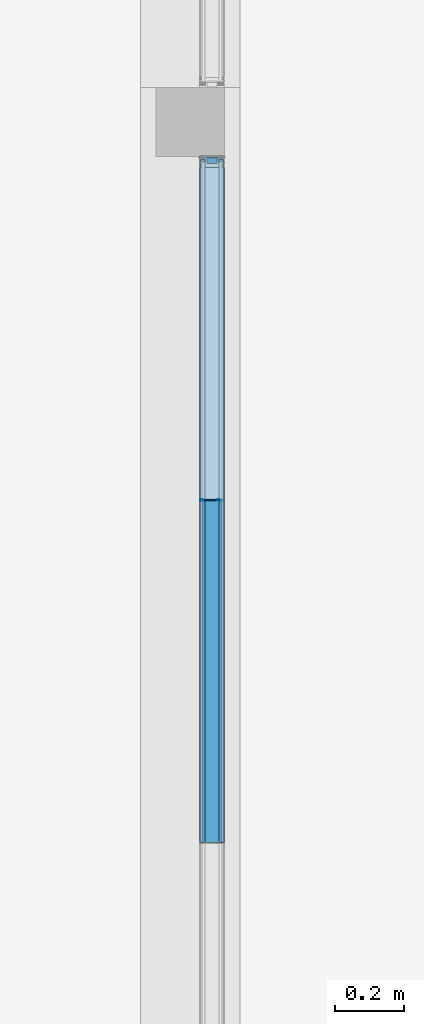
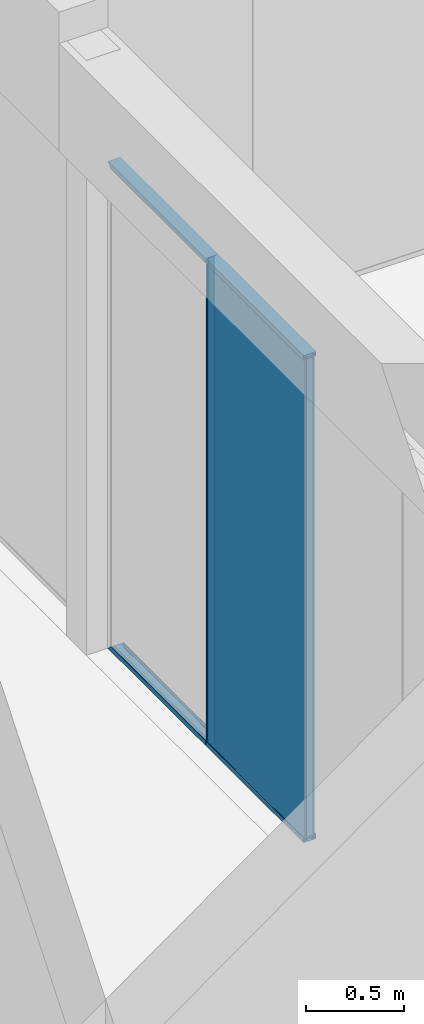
# One storey, part 70 of 387: 8 building element parts, 7 elements without a shape of their own.
"""IFC2X3 building model written with IfcOpenShell, lengths in millimetres."""

from ifc_helpers import new_model, entity, si_unit, converted_unit, derived_unit, money_unit, direction, frame, origin_with_axes, place, context, subcontext, project, spatial, faceted_brep, source, transform, mapped, material, type_object, element, aggregate, save


model = new_model("IFC2X3")

# Units and contexts
model_context = context("Model", 3, precision=0.01, world=origin_with_axes(), true_north=direction((0.0, 1.0)))
body_context = subcontext(model_context, "Body", "Model", "MODEL_VIEW")
ifc_project = project(units=[si_unit("LENGTHUNIT", "METRE", prefix="MILLI"), si_unit("AREAUNIT", "SQUARE_METRE"), si_unit("VOLUMEUNIT", "CUBIC_METRE"), converted_unit("PLANEANGLEUNIT", "DEGREE", entity("IfcPlaneAngleMeasure", 0.0174532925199), si_unit("PLANEANGLEUNIT", "RADIAN"), dimensions=[0, 0, 0, 0, 0, 0, 0]), si_unit("SOLIDANGLEUNIT", "STERADIAN"), money_unit("EUR"), converted_unit("TIMEUNIT", "Year", entity("IfcTimeMeasure", 31556926.0), si_unit("TIMEUNIT", "SECOND"), dimensions=[0, 0, 1, 0, 0, 0, 0]), si_unit("MASSUNIT", "GRAM", prefix="KILO"), si_unit("THERMODYNAMICTEMPERATUREUNIT", "DEGREE_CELSIUS"), si_unit("LUMINOUSINTENSITYUNIT", "LUMEN"), si_unit("ENERGYUNIT", "JOULE", prefix="MEGA"), derived_unit("THERMALCONDUCTANCEUNIT", [(si_unit("POWERUNIT", "WATT"), 1), (si_unit("LENGTHUNIT", "METRE"), -1), (si_unit("THERMODYNAMICTEMPERATUREUNIT", "KELVIN"), -1)]), derived_unit("SPECIFICHEATCAPACITYUNIT", [(si_unit("ENERGYUNIT", "JOULE"), 1), (si_unit("MASSUNIT", "GRAM", prefix="KILO"), -1), (si_unit("THERMODYNAMICTEMPERATUREUNIT", "KELVIN"), -1)]), derived_unit("MASSDENSITYUNIT", [(si_unit("MASSUNIT", "GRAM", prefix="KILO"), 1), (si_unit("VOLUMEUNIT", "CUBIC_METRE"), -1)])], contexts=[model_context])

# Site, building, storey
site_placement = place(None, origin_with_axes())
site = spatial("IfcSite", under=ifc_project, at=site_placement, Name="Puškini 31, Narva", CompositionType="ELEMENT")
building_placement = place(site_placement, origin_with_axes())
building = spatial("IfcBuilding", under=site, at=building_placement, Name="Narva Riigigümnaasium", CompositionType="ELEMENT")
storey_placement = place(building_placement, frame((0.0, 0.0, 2640.0), z_axis=(0.0, 0.0, 1.0), x_axis=(1.0, 0.0, 0.0)))
storey = spatial("IfcBuildingStorey", under=building, at=storey_placement, Name="2.korrus +2.64", CompositionType="ELEMENT", Elevation=2640.0)

# Curtain wall, members, building element parts, plate
curtain_wall_type = type_object("IfcCurtainWallType", Name="Curtain Wall Type", PredefinedType="NOTDEFINED")
curtain_wall_placement = place(storey_placement, frame((32758.0000014, 170699.499919, -1.72487286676e-05), z_axis=(0.0, 0.0, 1.0), x_axis=(1.0, 0.0, 0.0)))
curtain_wall = element("IfcCurtainWall", 1, at=curtain_wall_placement, inside=storey, type_object=curtain_wall_type, Name="G-SKLF-29")
member_type_1 = type_object("IfcMemberType", Name="Boundary Frame 30 x 42", PredefinedType="MULLION")
member_1_placement = place(curtain_wall_placement, frame((-1.87654336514e-08, -1495.5, 0.0), z_axis=(0.0, 1.0, 0.0), x_axis=(0.0, 0.0, 1.0)))
member_1 = element("IfcMember", 2, at=member_1_placement, type_object=member_type_1, Name="G-SKLF-21-raam", ObjectType="MULLION")
ifc_material_1 = material(Name="Teras RAL7012")
shared_shape_1 = source(origin_with_axes(), body_context, "Body", "Brep", [
    faceted_brep([(-29.5999996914, -22.0000000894, 1.47998535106), (0.0, -22.0000000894, 0.0), (0.0, -22.0000000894, 997.0), (-29.5999996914, -22.0000000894, 995.519987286), (-29.5999996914, 12.0000000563, 1.47998535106), (0.0, 12.0000000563, 0.0), (-1.9999999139, 10.0000001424, 0.0999990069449), (-18.7999996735, 10.0000001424, 0.939990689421), (-18.7999996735, -20.0000001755, 0.939990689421), (-1.9999999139, -20.0000001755, 0.0999990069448), (0.0, 12.0000000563, 997.0), (-29.5999996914, 12.0000000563, 995.519987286), (-1.9999999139, 10.0000001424, 996.899999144), (-1.9999999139, -20.0000001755, 996.899999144), (-18.7999996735, -20.0000001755, 996.059991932), (-18.7999996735, 10.0000001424, 996.059991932)], [[[0, 1, 2, 3]], [[1, 0, 4, 5], [6, 7, 8, 9]], [[1, 5, 10, 2]], [[2, 10, 11, 3], [12, 13, 14, 15]], [[4, 0, 3, 11]], [[5, 4, 11, 10]], [[7, 6, 12, 15]], [[8, 7, 15, 14]], [[9, 8, 14, 13]], [[6, 9, 13, 12]]]),
    faceted_brep([(-29.5999996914, 12.0000000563, 1.47998535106), (0.0, 12.0, 0.0), (0.0, 12.0, 997.0), (-29.5999996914, 12.0000000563, 995.519987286), (-30.0000193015, 12.0, 1.49998613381), (-30.0000193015, 15.0, 1.49998613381), (-13.8499999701, 15.000000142, 0.69249315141), (-7.49999999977, 15.0, 0.374996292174), (-7.49999999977, 29.0161444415, 0.374996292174), (-13.8499999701, 29.0161444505, 0.69249315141), (-24.987414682, 29.0161444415, 1.24935838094), (-28.5126239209, 29.0161444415, 1.42561710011), (-30.0000193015, 29.0161444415, 1.49998613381), (-30.0000193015, 32.0, 1.49998613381), (0.0, 32.0, 0.0), (0.0, 32.0, 997.0), (-30.0000193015, 32.0, 995.499986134), (-30.0000193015, 29.0161444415, 995.499986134), (-28.5126239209, 29.0161444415, 995.574356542), (-24.987414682, 29.0161444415, 995.75061852), (-13.8499999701, 29.0161444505, 996.307494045), (-7.49999999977, 29.0161444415, 996.624996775), (-7.49999999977, 15.0, 996.624996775), (-13.8499999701, 15.000000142, 996.307494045), (-30.0000193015, 15.0, 995.499986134), (-30.0000193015, 12.0, 995.499986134)], [[[0, 1, 2, 3]], [[1, 0, 4, 5, 6, 7, 8, 9, 10, 11, 12, 13, 14]], [[1, 14, 15, 2]], [[2, 15, 16, 17, 18, 19, 20, 21, 22, 23, 24, 25, 3]], [[4, 0, 3, 25]], [[5, 4, 25, 24]], [[6, 5, 24, 23]], [[7, 6, 23, 22]], [[8, 7, 22, 21]], [[9, 8, 21, 20]], [[10, 9, 20, 19]], [[11, 10, 19, 18]], [[12, 11, 18, 17]], [[13, 12, 17, 16]], [[14, 13, 16, 15]]]),
    faceted_brep([(0.0, -42.0, 0.0), (0.0, -22.0, 0.0), (0.0, -22.0, 997.0), (0.0, -42.0, 997.0), (-30.0000193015, -42.0, 1.49998613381), (-30.0000193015, -39.0161444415, 1.49998613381), (-28.5126239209, -39.0161444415, 1.42561710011), (-24.987414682, -39.0161444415, 1.24935838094), (-13.8499999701, -39.0161445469, 0.69249315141), (-7.49999999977, -39.0161444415, 0.374996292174), (-7.49999999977, -25.0, 0.374996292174), (-13.8499999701, -24.9999997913, 0.69249315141), (-30.0000193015, -25.0, 1.49998613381), (-30.0000193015, -22.0, 1.49998613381), (-29.5999996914, -22.0000000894, 1.47998535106), (-29.5999996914, -22.0000000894, 995.519987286), (-30.0000193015, -22.0, 995.499986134), (-30.0000193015, -25.0, 995.499986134), (-13.8499999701, -24.9999997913, 996.307494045), (-7.49999999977, -25.0, 996.624996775), (-7.49999999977, -39.0161444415, 996.624996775), (-13.8499999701, -39.0161445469, 996.307494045), (-24.987414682, -39.0161444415, 995.75061852), (-28.5126239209, -39.0161444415, 995.574356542), (-30.0000193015, -39.0161444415, 995.499986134), (-30.0000193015, -42.0, 995.499986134)], [[[0, 1, 2, 3]], [[1, 0, 4, 5, 6, 7, 8, 9, 10, 11, 12, 13, 14]], [[1, 14, 15, 2]], [[2, 15, 16, 17, 18, 19, 20, 21, 22, 23, 24, 25, 3]], [[4, 0, 3, 25]], [[5, 4, 25, 24]], [[6, 5, 24, 23]], [[7, 6, 23, 22]], [[8, 7, 22, 21]], [[9, 8, 21, 20]], [[10, 9, 20, 19]], [[11, 10, 19, 18]], [[12, 11, 18, 17]], [[13, 12, 17, 16]], [[14, 13, 16, 15]]]),
])
building_element_part_1_placement = place(member_1_placement, origin_with_axes())
building_element_part_1 = element("IfcBuildingElementPart", 3, at=building_element_part_1_placement, material=ifc_material_1, Name="Teras RAL7012", context=body_context, shape_type="MappedRepresentation", body=[
    mapped(shared_shape_1, transform((0.0, 0.0, 0.0), x_axis=(-1.0, 0.0, 0.0), y_axis=(0.0, -1.0, 0.0), z_axis=(0.0, 0.0, 1.0))),
])
aggregate(member_1, [building_element_part_1])
member_2_placement = place(curtain_wall_placement, frame((-6.25277607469e-09, -498.5, 3030.00004237), z_axis=(0.0, -1.0, 0.0), x_axis=(0.0, 0.0, -1.0)))
member_2 = element("IfcMember", 4, at=member_2_placement, type_object=member_type_1, Name="G-SKLF-27-raam", ObjectType="MULLION")
building_element_part_2_placement = place(member_2_placement, origin_with_axes())
building_element_part_2 = element("IfcBuildingElementPart", 5, at=building_element_part_2_placement, material=ifc_material_1, Name="Teras RAL7012", context=body_context, shape_type="MappedRepresentation", body=[
    mapped(shared_shape_1, transform((0.0, 0.0, 0.0), x_axis=(-1.0, 0.0, 0.0), y_axis=(0.0, -1.0, 0.0), z_axis=(0.0, 0.0, 1.0))),
])
aggregate(member_2, [building_element_part_2])
member_type_2 = type_object("IfcMemberType", Name="3 x 29", PredefinedType="MULLION")
member_3_placement = place(curtain_wall_placement, frame((-6.25277607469e-09, -498.5, 0.0), z_axis=(0.0, 0.0, 1.0), x_axis=(0.0, -1.0, 0.0)))
member_3 = element("IfcMember", 6, at=member_3_placement, type_object=member_type_2, Name="G-SKLF-83-raam", ObjectType="MULLION")
ifc_material_2 = material(Name="Klaas")
shared_shape_2 = source(origin_with_axes(), body_context, "Body", "Brep", [
    faceted_brep([(-1.50001386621, 20.0064497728, 30.0000193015), (-1.50001386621, 20.0064497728, 3000.00002302), (-1.50001386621, 29.0064496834, 3000.00002302), (-1.50001386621, 29.0064496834, 30.0000193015), (0.0, 20.0064497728, 0.0), (1.49998613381, 20.0064497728, 30.0000193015), (1.49998613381, 20.0064497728, 3000.00002307), (0.0, 20.0064497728, 3030.00004237), (0.0, 29.0064496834, 3030.00004237), (0.0, 29.0064496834, 0.0), (1.49998613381, 29.0064496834, 3000.00002307), (1.49998613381, 29.0064496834, 30.0000193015)], [[[0, 1, 2, 3]], [[4, 5, 6, 7, 1, 0]], [[2, 1, 7, 8]], [[9, 3, 2, 8, 10, 11]], [[9, 4, 0, 3]], [[11, 5, 4, 9]], [[11, 10, 6, 5]], [[10, 8, 7, 6]]]),
    faceted_brep([(-1.50001386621, -28.9935503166, 30.0000193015), (-1.50001386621, -28.9935503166, 3000.00002302), (-1.50001386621, -19.993550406, 3000.00002302), (-1.50001386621, -19.993550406, 30.0000193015), (0.0, -28.9935503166, 0.0), (1.49998613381, -28.9935503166, 30.0000193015), (1.49998613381, -28.9935503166, 3000.00002307), (0.0, -28.9935503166, 3030.00004237), (0.0, -19.993550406, 3030.00004237), (0.0, -19.993550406, 0.0), (1.49998613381, -19.993550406, 3000.00002307), (1.49998613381, -19.993550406, 30.0000193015)], [[[0, 1, 2, 3]], [[4, 5, 6, 7, 1, 0]], [[2, 1, 7, 8]], [[9, 3, 2, 8, 10, 11]], [[9, 4, 0, 3]], [[11, 5, 4, 9]], [[11, 10, 6, 5]], [[10, 8, 7, 6]]]),
])
building_element_part_3_placement = place(member_3_placement, origin_with_axes())
building_element_part_3 = element("IfcBuildingElementPart", 7, at=building_element_part_3_placement, material=ifc_material_2, Name="Klaas", context=body_context, shape_type="MappedRepresentation", body=[
    mapped(shared_shape_2, transform((0.0, 0.0, 0.0), x_axis=(-1.0, 0.0, 0.0), y_axis=(0.0, -1.0, 0.0), z_axis=(0.0, 0.0, 1.0))),
])
ifc_material_3 = material(Name="VKR-06_Õhkvahe")
shared_shape_3 = source(origin_with_axes(), body_context, "Body", "Brep", [
    faceted_brep([(-1.50001386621, -19.9935503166, 30.0000193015), (-1.50001386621, -19.9935503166, 3000.00002302), (-1.50001386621, 20.0064496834, 3000.00002302), (-1.50001386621, 20.0064496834, 30.0000193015), (0.0, -19.9935503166, 0.0), (1.49998613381, -19.9935503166, 30.0000193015), (1.49998613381, -19.9935503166, 3000.00002307), (0.0, -19.9935503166, 3030.00004237), (0.0, 20.0064496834, 3030.00004237), (0.0, 20.0064496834, 0.0), (1.49998613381, 20.0064496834, 3000.00002307), (1.49998613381, 20.0064496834, 30.0000193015)], [[[0, 1, 2, 3]], [[4, 5, 6, 7, 1, 0]], [[2, 1, 7, 8]], [[9, 3, 2, 8, 10, 11]], [[9, 4, 0, 3]], [[11, 5, 4, 9]], [[11, 10, 6, 5]], [[10, 8, 7, 6]]]),
])
building_element_part_4_placement = place(member_3_placement, origin_with_axes())
building_element_part_4 = element("IfcBuildingElementPart", 8, at=building_element_part_4_placement, material=ifc_material_3, Name="VKR-06_Õhkvahe", context=body_context, shape_type="MappedRepresentation", body=[
    mapped(shared_shape_3, transform((0.0, 0.0, 0.0), x_axis=(-1.0, 0.0, 0.0), y_axis=(0.0, -1.0, 0.0), z_axis=(0.0, 0.0, 1.0))),
])
aggregate(member_3, [building_element_part_3, building_element_part_4])
plate_type = type_object("IfcPlateType", Name="Siseklaasfassaad - Klaas 994 x 3000 x 10", PredefinedType="CURTAIN_PANEL")
plate_placement = place(curtain_wall_placement, frame((-1.25055521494e-08, -997.0, 1515.00002119), z_axis=(0.0, 0.0, 1.0), x_axis=(0.0, -1.0, 0.0)))
plate = element("IfcPlate", 9, at=plate_placement, type_object=plate_type, Name="G-SKLF-29-klaas", ObjectType="CURTAIN_PANEL")
ifc_material_4 = material(Name="VKR-05_Klaas")
shared_shape_4 = source(origin_with_axes(), body_context, "Body", "Brep", [
    faceted_brep([(-995.500001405, 3015.00003233, -34.0), (-995.500001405, 3015.00003233, -25.0), (-1.49999197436, 3015.00003233, -25.0), (-1.49999197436, 3015.00003233, -34.0), (-995.500001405, 15.0000100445, -34.0), (-995.500001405, 15.0000100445, -25.0), (-1.49999197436, 15.0000100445, -25.0), (-1.49999197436, 15.0000100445, -34.0)], [[[0, 1, 2, 3]], [[4, 5, 1, 0]], [[1, 5, 6, 2]], [[3, 2, 6, 7]], [[0, 3, 7, 4]], [[7, 6, 5, 4]]]),
    faceted_brep([(-995.500001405, 3015.00003233, 15.0), (-995.500001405, 3015.00003233, 24.0), (-1.49999197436, 3015.00003233, 24.0), (-1.49999197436, 3015.00003233, 15.0), (-995.500001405, 15.0000100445, 15.0), (-995.500001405, 15.0000100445, 24.0), (-1.49999197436, 15.0000100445, 24.0), (-1.49999197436, 15.0000100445, 15.0)], [[[0, 1, 2, 3]], [[4, 5, 1, 0]], [[1, 5, 6, 2]], [[3, 2, 6, 7]], [[0, 3, 7, 4]], [[7, 6, 5, 4]]]),
])
building_element_part_5_placement = place(plate_placement, origin_with_axes())
building_element_part_5 = element("IfcBuildingElementPart", 10, at=building_element_part_5_placement, material=ifc_material_4, Name="VKR-05_Klaas", context=body_context, shape_type="MappedRepresentation", body=[
    mapped(shared_shape_4, transform((498.5, 0.0, -1515.00002119), x_axis=(1.0, 0.0, 0.0), y_axis=(0.0, 0.0, 1.0), z_axis=(0.0, -1.0, 0.0))),
])
shared_shape_5 = source(origin_with_axes(), body_context, "Body", "Brep", [
    faceted_brep([(-995.500001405, 3015.00003233, -25.0), (-995.500001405, 3015.00003233, 15.0), (-1.49999197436, 3015.00003233, 15.0), (-1.49999197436, 3015.00003233, -25.0), (-995.500001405, 15.0000100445, -25.0), (-995.500001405, 15.0000100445, 15.0), (-1.49999197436, 15.0000100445, 15.0), (-1.49999197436, 15.0000100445, -25.0)], [[[0, 1, 2, 3]], [[4, 5, 1, 0]], [[1, 5, 6, 2]], [[3, 2, 6, 7]], [[0, 3, 7, 4]], [[7, 6, 5, 4]]]),
])
building_element_part_6_placement = place(plate_placement, origin_with_axes())
building_element_part_6 = element("IfcBuildingElementPart", 11, at=building_element_part_6_placement, material=ifc_material_3, Name="VKR-06_Õhkvahe", context=body_context, shape_type="MappedRepresentation", body=[
    mapped(shared_shape_5, transform((498.5, 0.0, -1515.00002119), x_axis=(1.0, 0.0, 0.0), y_axis=(0.0, 0.0, 1.0), z_axis=(0.0, -1.0, 0.0))),
])
aggregate(plate, [building_element_part_5, building_element_part_6])
member_4_placement = place(curtain_wall_placement, frame((6.25277607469e-09, 498.5, 3030.00000556), z_axis=(0.0, -1.0, 3.692282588e-08), x_axis=(0.0, -3.692282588e-08, -1.0)))
member_4 = element("IfcMember", 12, at=member_4_placement, type_object=member_type_1, Name="G-SKLF-26-raam", ObjectType="MULLION")
shared_shape_6 = source(origin_with_axes(), body_context, "Body", "Brep", [
    faceted_brep([(-29.5999996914, -22.0000000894, 29.5999996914), (0.0, -22.0000000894, 0.0), (0.0, -22.0000000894, 997.0), (-29.5999996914, -22.0000000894, 995.519987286), (-29.5999996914, 12.0000000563, 29.5999996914), (0.0, 12.0000000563, 0.0), (-1.9999999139, 10.0000001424, 1.9999999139), (-18.7999996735, 10.0000001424, 18.7999996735), (-18.7999996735, -20.0000001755, 18.7999996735), (-1.9999999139, -20.0000001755, 1.9999999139), (0.0, 12.0000000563, 997.0), (-29.5999996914, 12.0000000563, 995.519987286), (-1.9999999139, 10.0000001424, 996.899999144), (-1.9999999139, -20.0000001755, 996.899999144), (-18.7999996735, -20.0000001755, 996.059991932), (-18.7999996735, 10.0000001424, 996.059991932)], [[[0, 1, 2, 3]], [[1, 0, 4, 5], [6, 7, 8, 9]], [[1, 5, 10, 2]], [[2, 10, 11, 3], [12, 13, 14, 15]], [[4, 0, 3, 11]], [[5, 4, 11, 10]], [[7, 6, 12, 15]], [[8, 7, 15, 14]], [[9, 8, 14, 13]], [[6, 9, 13, 12]]]),
    faceted_brep([(-29.5999996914, 12.0000000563, 29.5999996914), (0.0, 12.0, 0.0), (0.0, 12.0, 997.0), (-29.5999996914, 12.0000000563, 995.519987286), (-30.0000193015, 12.0, 30.0000193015), (-30.0000193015, 15.0, 30.0000193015), (-13.8499999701, 15.000000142, 13.8499999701), (-7.49999999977, 15.0, 7.49999999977), (-7.49999999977, 29.0161444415, 7.49999999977), (-13.8499999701, 29.0161444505, 13.8499999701), (-24.987414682, 29.0161444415, 24.987414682), (-28.5126239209, 29.0161444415, 28.5126239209), (-30.0000193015, 29.0161444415, 30.0000193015), (-30.0000193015, 32.0, 30.0000193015), (0.0, 32.0, 0.0), (0.0, 32.0, 997.0), (-30.0000193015, 32.0, 995.499986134), (-30.0000193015, 29.0161444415, 995.499986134), (-28.5126239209, 29.0161444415, 995.574356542), (-24.987414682, 29.0161444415, 995.75061852), (-13.8499999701, 29.0161444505, 996.307494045), (-7.49999999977, 29.0161444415, 996.624996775), (-7.49999999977, 15.0, 996.624996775), (-13.8499999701, 15.000000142, 996.307494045), (-30.0000193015, 15.0, 995.499986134), (-30.0000193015, 12.0, 995.499986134)], [[[0, 1, 2, 3]], [[1, 0, 4, 5, 6, 7, 8, 9, 10, 11, 12, 13, 14]], [[1, 14, 15, 2]], [[2, 15, 16, 17, 18, 19, 20, 21, 22, 23, 24, 25, 3]], [[4, 0, 3, 25]], [[5, 4, 25, 24]], [[6, 5, 24, 23]], [[7, 6, 23, 22]], [[8, 7, 22, 21]], [[9, 8, 21, 20]], [[10, 9, 20, 19]], [[11, 10, 19, 18]], [[12, 11, 18, 17]], [[13, 12, 17, 16]], [[14, 13, 16, 15]]]),
    faceted_brep([(0.0, -42.0, 0.0), (0.0, -22.0, 0.0), (0.0, -22.0, 997.0), (0.0, -42.0, 997.0), (-30.0000193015, -42.0, 30.0000193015), (-30.0000193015, -39.0161444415, 30.0000193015), (-28.5126239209, -39.0161444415, 28.5126239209), (-24.987414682, -39.0161444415, 24.987414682), (-13.8499999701, -39.0161445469, 13.8499999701), (-7.49999999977, -39.0161444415, 7.49999999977), (-7.49999999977, -25.0, 7.49999999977), (-13.8499999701, -24.9999997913, 13.8499999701), (-30.0000193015, -25.0, 30.0000193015), (-30.0000193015, -22.0, 30.0000193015), (-29.5999996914, -22.0000000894, 29.5999996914), (-29.5999996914, -22.0000000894, 995.519987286), (-30.0000193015, -22.0, 995.499986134), (-30.0000193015, -25.0, 995.499986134), (-13.8499999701, -24.9999997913, 996.307494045), (-7.49999999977, -25.0, 996.624996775), (-7.49999999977, -39.0161444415, 996.624996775), (-13.8499999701, -39.0161445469, 996.307494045), (-24.987414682, -39.0161444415, 995.75061852), (-28.5126239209, -39.0161444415, 995.574356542), (-30.0000193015, -39.0161444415, 995.499986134), (-30.0000193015, -42.0, 995.499986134)], [[[0, 1, 2, 3]], [[1, 0, 4, 5, 6, 7, 8, 9, 10, 11, 12, 13, 14]], [[1, 14, 15, 2]], [[2, 15, 16, 17, 18, 19, 20, 21, 22, 23, 24, 25, 3]], [[4, 0, 3, 25]], [[5, 4, 25, 24]], [[6, 5, 24, 23]], [[7, 6, 23, 22]], [[8, 7, 22, 21]], [[9, 8, 21, 20]], [[10, 9, 20, 19]], [[11, 10, 19, 18]], [[12, 11, 18, 17]], [[13, 12, 17, 16]], [[14, 13, 16, 15]]]),
])
building_element_part_7_placement = place(member_4_placement, origin_with_axes())
building_element_part_7 = element("IfcBuildingElementPart", 13, at=building_element_part_7_placement, material=ifc_material_1, Name="Teras RAL7012", context=body_context, shape_type="MappedRepresentation", body=[
    mapped(shared_shape_6, transform((0.0, 0.0, 0.0), x_axis=(-1.0, 0.0, 3.69228258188e-08), y_axis=(0.0, -1.0, 0.0), z_axis=(3.69228258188e-08, 0.0, 1.0))),
])
aggregate(member_4, [building_element_part_7])
member_5_placement = place(curtain_wall_placement, frame((-6.25277607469e-09, -498.5, 0.0), z_axis=(0.0, 1.0, 0.0), x_axis=(0.0, 0.0, 1.0)))
member_5 = element("IfcMember", 14, at=member_5_placement, type_object=member_type_1, Name="G-SKLF-22-raam", ObjectType="MULLION")
aggregate(curtain_wall, [member_1, member_2, member_3, member_4, member_5, plate])
shared_shape_7 = source(origin_with_axes(), body_context, "Body", "Brep", [
    faceted_brep([(-29.5999996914, -22.0000000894, 1.48001379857), (0.0, -22.0000000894, 0.0), (0.0, -22.0000000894, 997.0), (-29.5999996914, -22.0000000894, 967.400001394), (-29.5999996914, 12.0000000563, 1.48001379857), (0.0, 12.0000000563, 0.0), (-1.9999999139, 10.0000001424, 0.100000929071), (-18.7999996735, 10.0000001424, 0.940008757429), (-18.7999996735, -20.0000001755, 0.940008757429), (-1.9999999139, -20.0000001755, 0.100000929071), (0.0, 12.0000000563, 997.0), (-29.5999996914, 12.0000000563, 967.400001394), (-1.9999999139, 10.0000001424, 995.000000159), (-1.9999999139, -20.0000001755, 995.000000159), (-18.7999996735, -20.0000001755, 978.200001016), (-18.7999996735, 10.0000001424, 978.200001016)], [[[0, 1, 2, 3]], [[1, 0, 4, 5], [6, 7, 8, 9]], [[1, 5, 10, 2]], [[2, 10, 11, 3], [12, 13, 14, 15]], [[4, 0, 3, 11]], [[5, 4, 11, 10]], [[7, 6, 12, 15]], [[8, 7, 15, 14]], [[9, 8, 14, 13]], [[6, 9, 13, 12]]]),
    faceted_brep([(-29.5999996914, 12.0000000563, 1.48001379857), (0.0, 12.0, 0.0), (0.0, 12.0, 997.0), (-29.5999996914, 12.0000000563, 967.400001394), (-30.0000193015, 12.0, 1.50001496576), (-30.0000193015, 15.0, 1.50001496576), (-13.8499999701, 15.000000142, 0.69250646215), (-7.49999999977, 15.0, 0.375003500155), (-7.49999999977, 29.0161444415, 0.375003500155), (-13.8499999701, 29.0161444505, 0.69250646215), (-24.987414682, 29.0161444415, 1.24938239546), (-28.5126239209, 29.0161444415, 1.42564450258), (-30.0000193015, 29.0161444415, 1.50001496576), (-30.0000193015, 32.0, 1.50001496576), (0.0, 32.0, 0.0), (0.0, 32.0, 997.0), (-30.0000193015, 32.0, 966.999981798), (-30.0000193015, 29.0161444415, 966.999981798), (-28.5126239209, 29.0161444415, 968.487377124), (-24.987414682, 29.0161444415, 972.012586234), (-13.8499999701, 29.0161444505, 983.150000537), (-7.49999999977, 29.0161444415, 989.500000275), (-7.49999999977, 15.0, 989.500000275), (-13.8499999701, 15.000000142, 983.150000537), (-30.0000193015, 15.0, 966.999981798), (-30.0000193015, 12.0, 966.999981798)], [[[0, 1, 2, 3]], [[1, 0, 4, 5, 6, 7, 8, 9, 10, 11, 12, 13, 14]], [[1, 14, 15, 2]], [[2, 15, 16, 17, 18, 19, 20, 21, 22, 23, 24, 25, 3]], [[4, 0, 3, 25]], [[5, 4, 25, 24]], [[6, 5, 24, 23]], [[7, 6, 23, 22]], [[8, 7, 22, 21]], [[9, 8, 21, 20]], [[10, 9, 20, 19]], [[11, 10, 19, 18]], [[12, 11, 18, 17]], [[13, 12, 17, 16]], [[14, 13, 16, 15]]]),
    faceted_brep([(0.0, -42.0, 0.0), (0.0, -22.0, 0.0), (0.0, -22.0, 997.0), (0.0, -42.0, 997.0), (-30.0000193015, -42.0, 1.50001496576), (-30.0000193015, -39.0161444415, 1.50001496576), (-28.5126239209, -39.0161444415, 1.42564450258), (-24.987414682, -39.0161444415, 1.24938239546), (-13.8499999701, -39.0161445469, 0.69250646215), (-7.49999999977, -39.0161444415, 0.375003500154), (-7.49999999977, -25.0, 0.375003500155), (-13.8499999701, -24.9999997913, 0.69250646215), (-30.0000193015, -25.0, 1.50001496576), (-30.0000193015, -22.0, 1.50001496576), (-29.5999996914, -22.0000000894, 1.48001379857), (-29.5999996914, -22.0000000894, 967.400001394), (-30.0000193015, -22.0, 966.999981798), (-30.0000193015, -25.0, 966.999981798), (-13.8499999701, -24.9999997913, 983.150000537), (-7.49999999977, -25.0, 989.500000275), (-7.49999999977, -39.0161444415, 989.500000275), (-13.8499999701, -39.0161445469, 983.150000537), (-24.987414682, -39.0161444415, 972.012586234), (-28.5126239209, -39.0161444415, 968.487377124), (-30.0000193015, -39.0161444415, 966.999981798), (-30.0000193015, -42.0, 966.999981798)], [[[0, 1, 2, 3]], [[1, 0, 4, 5, 6, 7, 8, 9, 10, 11, 12, 13, 14]], [[1, 14, 15, 2]], [[2, 15, 16, 17, 18, 19, 20, 21, 22, 23, 24, 25, 3]], [[4, 0, 3, 25]], [[5, 4, 25, 24]], [[6, 5, 24, 23]], [[7, 6, 23, 22]], [[8, 7, 22, 21]], [[9, 8, 21, 20]], [[10, 9, 20, 19]], [[11, 10, 19, 18]], [[12, 11, 18, 17]], [[13, 12, 17, 16]], [[14, 13, 16, 15]]]),
])
building_element_part_8_placement = place(member_5_placement, origin_with_axes())
building_element_part_8 = element("IfcBuildingElementPart", 15, at=building_element_part_8_placement, material=ifc_material_1, Name="Teras RAL7012", context=body_context, shape_type="MappedRepresentation", body=[
    mapped(shared_shape_7, transform((0.0, 0.0, 0.0), x_axis=(-1.0, 0.0, 0.0), y_axis=(0.0, -1.0, 0.0), z_axis=(0.0, 0.0, 1.0))),
])
aggregate(member_5, [building_element_part_8])

save(model, "model.ifc")
